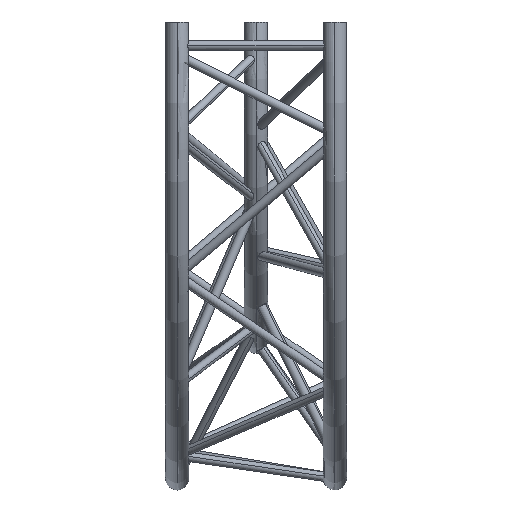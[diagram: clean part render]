
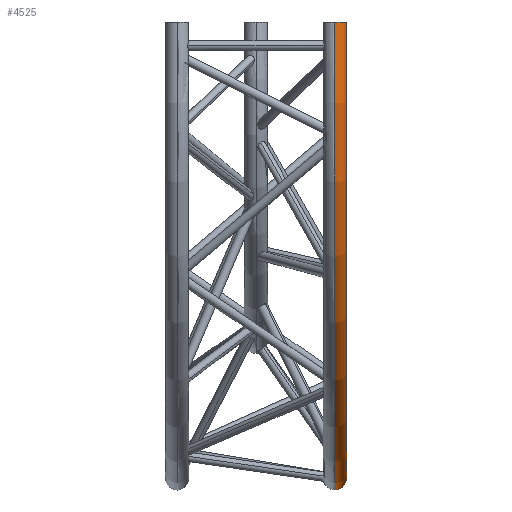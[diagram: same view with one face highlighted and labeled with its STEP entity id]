
A CAD part, left-side view. The second image highlights one B-rep face of the part: STEP entity #4525.
In plain terms, the highlighted toroidal (fillet/blend) face has major radius 975 mm and minor radius 25 mm.
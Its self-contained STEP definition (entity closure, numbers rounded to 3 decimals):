
#860 = CARTESIAN_POINT ( 'NONE',  ( 0., -168.5, -950. ) ) ;
#907 = CARTESIAN_POINT ( 'NONE',  ( 0., -168.5, -1000. ) ) ;
#940 = DIRECTION ( 'NONE',  ( 0., 0., 1. ) ) ;
#941 = DIRECTION ( 'NONE',  ( -1., 0., 0. ) ) ;
#942 = CARTESIAN_POINT ( 'NONE',  ( 0., -168.5, -975. ) ) ;
#943 = AXIS2_PLACEMENT_3D ( 'NONE', #942, #941, #940 ) ;
#944 = CIRCLE ( 'NONE', #943, 25. ) ;
#4509 = ORIENTED_EDGE ( 'NONE', *, *, #4566, .T. ) ;
#4525 = ADVANCED_FACE ( 'NONE', ( #8324 ), #8322, .T. ) ;
#4526 = ORIENTED_EDGE ( 'NONE', *, *, #4527, .T. ) ;
#4527 = EDGE_CURVE ( 'NONE', #4529, #4531, #8341, .T. ) ;
#4529 = VERTEX_POINT ( 'NONE', #8336 ) ;
#4531 = VERTEX_POINT ( 'NONE', #8334 ) ;
#4538 = EDGE_LOOP ( 'NONE', ( #4526, #4509, #4585, #4580 ) ) ;
#4566 = EDGE_CURVE ( 'NONE', #4531, #4783, #8651, .T. ) ;
#4578 = EDGE_CURVE ( 'NONE', #4529, #4777, #8704, .T. ) ;
#4580 = ORIENTED_EDGE ( 'NONE', *, *, #4578, .F. ) ;
#4585 = ORIENTED_EDGE ( 'NONE', *, *, #4791, .T. ) ;
#4777 = VERTEX_POINT ( 'NONE', #860 ) ;
#4783 = VERTEX_POINT ( 'NONE', #907 ) ;
#4791 = EDGE_CURVE ( 'NONE', #4783, #4777, #944, .T. ) ;
#8322 = TOROIDAL_SURFACE ( 'NONE', #8345, 975., 25. ) ;
#8324 = FACE_OUTER_BOUND ( 'NONE', #4538, .T. ) ;
#8334 = CARTESIAN_POINT ( 'NONE',  ( -1000., -168.5, 0. ) ) ;
#8336 = CARTESIAN_POINT ( 'NONE',  ( -950., -168.5, 0. ) ) ;
#8337 = DIRECTION ( 'NONE',  ( -1., 0., 0. ) ) ;
#8338 = DIRECTION ( 'NONE',  ( 0., 0., -1. ) ) ;
#8339 = CARTESIAN_POINT ( 'NONE',  ( -975., -168.5, 0. ) ) ;
#8340 = AXIS2_PLACEMENT_3D ( 'NONE', #8339, #8338, #8337 ) ;
#8341 = CIRCLE ( 'NONE', #8340, 25. ) ;
#8342 = DIRECTION ( 'NONE',  ( 0., 0., -1. ) ) ;
#8343 = DIRECTION ( 'NONE',  ( 0., -1., 0. ) ) ;
#8344 = CARTESIAN_POINT ( 'NONE',  ( 0., -168.5, 0. ) ) ;
#8345 = AXIS2_PLACEMENT_3D ( 'NONE', #8344, #8343, #8342 ) ;
#8647 = DIRECTION ( 'NONE',  ( 0., 0., -1. ) ) ;
#8648 = DIRECTION ( 'NONE',  ( 0., -1., 0. ) ) ;
#8649 = CARTESIAN_POINT ( 'NONE',  ( 0., -168.5, 0. ) ) ;
#8650 = AXIS2_PLACEMENT_3D ( 'NONE', #8649, #8648, #8647 ) ;
#8651 = CIRCLE ( 'NONE', #8650, 1000. ) ;
#8704 = CIRCLE ( 'NONE', #8735, 950. ) ;
#8734 = CARTESIAN_POINT ( 'NONE',  ( 0., -168.5, 0. ) ) ;
#8735 = AXIS2_PLACEMENT_3D ( 'NONE', #8734, #8817, #8816 ) ;
#8816 = DIRECTION ( 'NONE',  ( 0., 0., -1. ) ) ;
#8817 = DIRECTION ( 'NONE',  ( 0., -1., 0. ) ) ;
